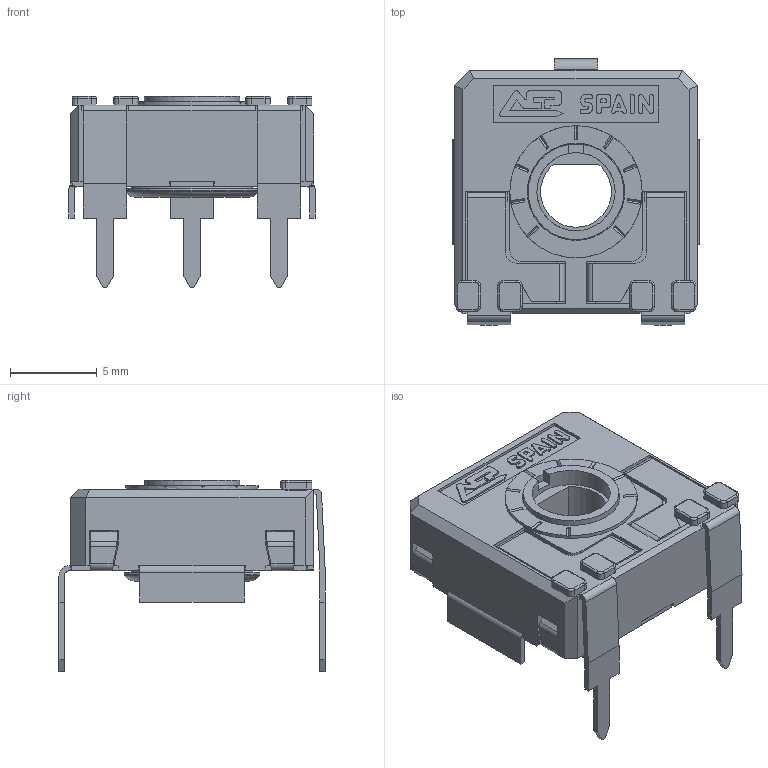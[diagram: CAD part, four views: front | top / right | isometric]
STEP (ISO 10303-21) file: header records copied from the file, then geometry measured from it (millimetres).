
FILE_DESCRIPTION(/* description */ (''),/* implementation_level */ '2;1');
FILE_NAME(/* name */ 'COMCA14DV15 CFF.stp',/* time_stamp */ '2026-04-01T16:27:27+02:00',/* author */ ('CEM'),/* organization */ (''),/* preprocessor_version */ 'ST-DEVELOPER v20.1',/* originating_system */ 'Autodesk Inventor 2026',/* authorisation */ '');
FILE_SCHEMA (('AUTOMOTIVE_DESIGN { 1 0 10303 214 3 1 1 }'));
Length unit declared in the file: millimetre
Products named in the file (1): CARCASA CA14 PGA
Bounding box: 14.15 x 15.3 x 11 mm (x, y, z)
Volume: 538.9 mm3; surface area: 1539 mm2
Topology: 1 solids, 1 shells, 682 faces, 1923 edges, 1237 vertices
Faces by surface type: plane 503, cylinder 142, torus 23, bspline 8, cone 6
Full cylindrical faces by diameter (mm): 4.5 x1, 5.5 x1, 5.6 x1, 5.752 x1, 6.8 x1, 7.6 x1
Entity records: 22253 total; most frequent: CARTESIAN_POINT 4140, ORIENTED_EDGE 3846, DIRECTION 3591, EDGE_CURVE 1923, LINE 1515, VECTOR 1515, VERTEX_POINT 1237, AXIS2_PLACEMENT_3D 1038
